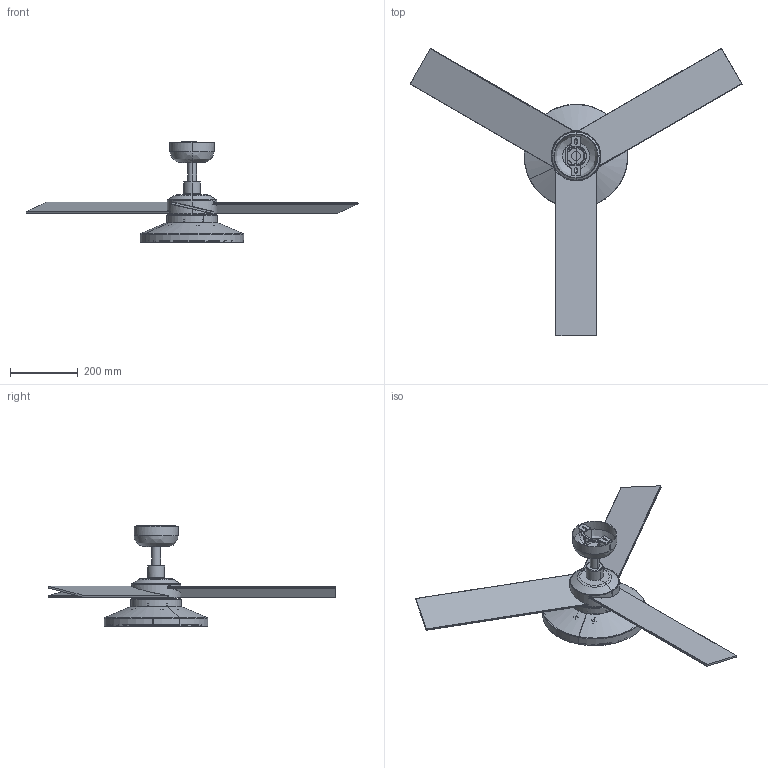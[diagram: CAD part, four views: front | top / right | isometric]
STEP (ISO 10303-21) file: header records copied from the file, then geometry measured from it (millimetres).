
FILE_DESCRIPTION(/* description */ (''),/* implementation_level */ '2;1');
FILE_NAME(/* name */ 'rudder_tak_3p_s_3d',/* time_stamp */ '2026-06-25T09:29:14+02:00',/* author */ (''),/* organization */ (''),/* preprocessor_version */ 'ST-DEVELOPER v19.2',/* originating_system */ 'Rhino 8.30',/* authorisation */ '');
FILE_SCHEMA (('CONFIG_CONTROL_DESIGN'));
Length unit declared in the file: millimetre
Products named in the file (1): Document
Bounding box: 979.31 x 848.17 x 296.86 mm (x, y, z)
Volume: 212145.6 mm3; surface area: 1090477.8 mm2
Topology: 2 solids, 692 shells, 744 faces, 3936 edges, 3887 vertices
Faces by surface type: plane 405, cylinder 274, bspline 65
Entity records: 54711 total; most frequent: CARTESIAN_POINT 23936, ORIENTED_EDGE 4086, EDGE_CURVE 3936, VERTEX_POINT 3886, B_SPLINE_CURVE_WITH_KNOTS 2759, DIRECTION 2713, AXIS2_PLACEMENT_3D 1696, TRIMMED_CURVE 1013
